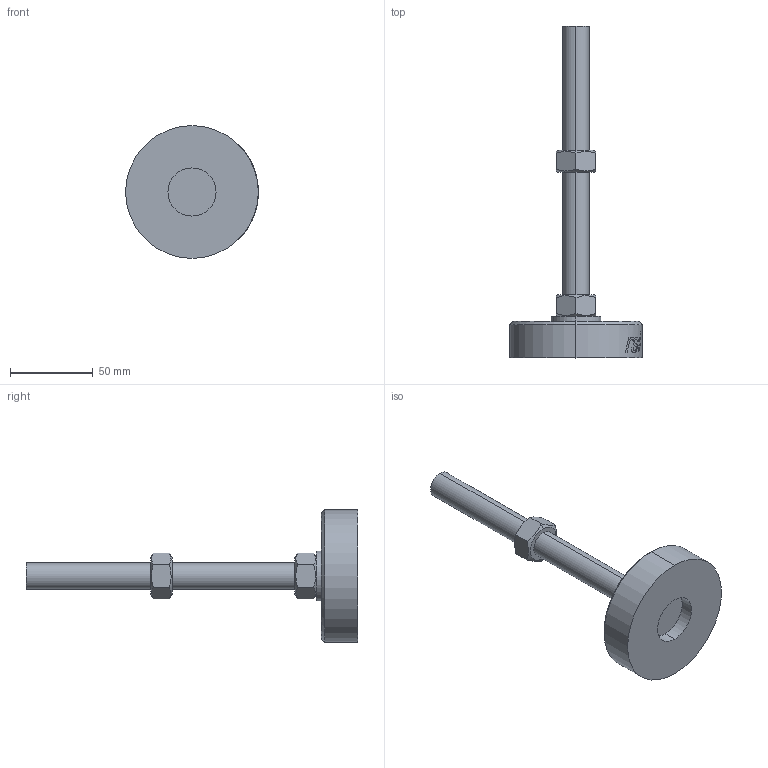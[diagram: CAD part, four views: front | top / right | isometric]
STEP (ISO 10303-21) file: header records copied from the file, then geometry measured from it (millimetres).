
FILE_DESCRIPTION (( 'STEP AP214' ), '1' );
FILE_NAME ('D80M16H200 Îáëåã÷åííàÿ.STEP', '2022-12-13T13:48:00', ( '' ), ( '' ), 'SwSTEP 2.0', 'SolidWorks 2020', '' );
FILE_SCHEMA (( 'AUTOMOTIVE_DESIGN' ));
Length unit declared in the file: millimetre
Products named in the file (1): D80M16H200 Îáëåã÷åííàÿ
Bounding box: 80.01 x 200 x 80 mm (x, y, z)
Volume: 149121.8 mm3; surface area: 33286.1 mm2
Topology: 5 solids, 5 shells, 146 faces, 359 edges, 236 vertices
Faces by surface type: bspline 76, plane 31, cylinder 29, cone 10
Entity records: 15641 total; most frequent: CARTESIAN_POINT 12624, ORIENTED_EDGE 718, EDGE_CURVE 359, DIRECTION 274, B_SPLINE_CURVE_WITH_KNOTS 273, VERTEX_POINT 236, EDGE_LOOP 167, ADVANCED_FACE 146
